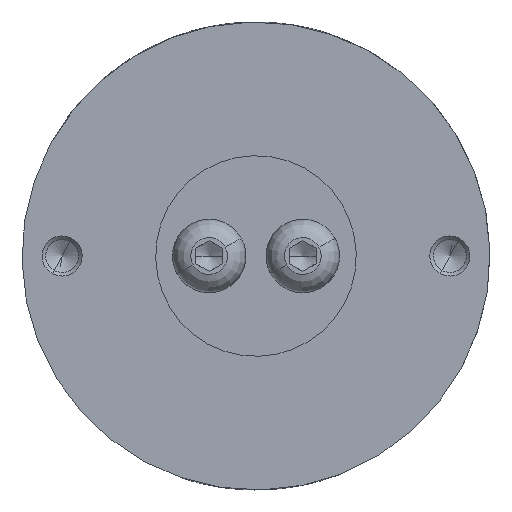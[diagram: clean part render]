
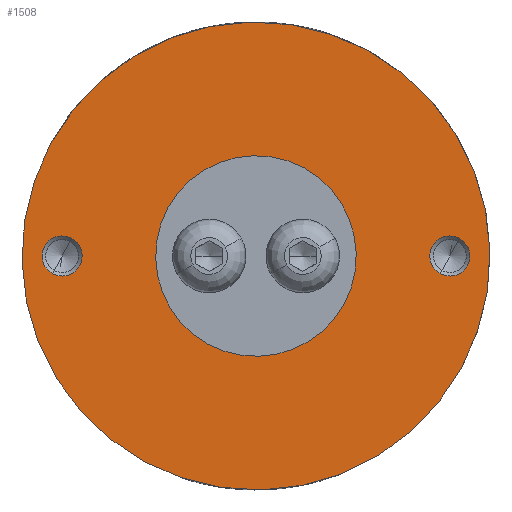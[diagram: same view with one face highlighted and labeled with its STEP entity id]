
A CAD part, front view. The second image highlights one B-rep face of the part: STEP entity #1508.
In plain terms, the highlighted planar face has unit normal (0, -1, 0).
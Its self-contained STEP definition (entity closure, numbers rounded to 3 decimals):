
#1327=CARTESIAN_POINT('Vertex',(15.358,0.,-8.39)) ;
#1330=CARTESIAN_POINT('Axis2P3D Location',(0.,0.,0.)) ;
#1334=CARTESIAN_POINT('Vertex',(-15.358,0.,8.39)) ;
#1391=CARTESIAN_POINT('Axis2P3D Location',(0.,0.,0.)) ;
#1445=CARTESIAN_POINT('Axis2P3D Location',(-17.5,0.,0.)) ;
#1454=CARTESIAN_POINT('Axis2P3D Location',(14.5,0.,0.)) ;
#1458=CARTESIAN_POINT('Vertex',(15.219,0.,1.316)) ;
#1460=CARTESIAN_POINT('Vertex',(13.781,0.,-1.316)) ;
#1463=CARTESIAN_POINT('Axis2P3D Location',(14.5,0.,0.)) ;
#1472=CARTESIAN_POINT('Axis2P3D Location',(-14.5,0.,0.)) ;
#1476=CARTESIAN_POINT('Vertex',(-15.219,0.,-1.316)) ;
#1478=CARTESIAN_POINT('Vertex',(-13.781,0.,1.316)) ;
#1481=CARTESIAN_POINT('Axis2P3D Location',(-14.5,0.,0.)) ;
#1490=CARTESIAN_POINT('Axis2P3D Location',(0.,0.,0.)) ;
#1494=CARTESIAN_POINT('Vertex',(6.582,0.,-3.596)) ;
#1496=CARTESIAN_POINT('Vertex',(-6.582,0.,3.596)) ;
#1499=CARTESIAN_POINT('Axis2P3D Location',(0.,0.,0.)) ;
#1331=DIRECTION('Axis2P3D Direction',(0.,1.,0.)) ;
#1392=DIRECTION('Axis2P3D Direction',(0.,1.,0.)) ;
#1446=DIRECTION('Axis2P3D Direction',(0.,1.,0.)) ;
#1447=DIRECTION('Axis2P3D XDirection',(1.,-0.,0.)) ;
#1455=DIRECTION('Axis2P3D Direction',(0.,1.,0.)) ;
#1464=DIRECTION('Axis2P3D Direction',(0.,1.,0.)) ;
#1473=DIRECTION('Axis2P3D Direction',(0.,1.,0.)) ;
#1482=DIRECTION('Axis2P3D Direction',(0.,1.,0.)) ;
#1491=DIRECTION('Axis2P3D Direction',(0.,1.,0.)) ;
#1500=DIRECTION('Axis2P3D Direction',(0.,1.,0.)) ;
#1332=AXIS2_PLACEMENT_3D('Circle Axis2P3D',#1330,#1331,$) ;
#1393=AXIS2_PLACEMENT_3D('Circle Axis2P3D',#1391,#1392,$) ;
#1448=AXIS2_PLACEMENT_3D('Plane Axis2P3D',#1445,#1446,#1447) ;
#1456=AXIS2_PLACEMENT_3D('Circle Axis2P3D',#1454,#1455,$) ;
#1465=AXIS2_PLACEMENT_3D('Circle Axis2P3D',#1463,#1464,$) ;
#1474=AXIS2_PLACEMENT_3D('Circle Axis2P3D',#1472,#1473,$) ;
#1483=AXIS2_PLACEMENT_3D('Circle Axis2P3D',#1481,#1482,$) ;
#1492=AXIS2_PLACEMENT_3D('Circle Axis2P3D',#1490,#1491,$) ;
#1501=AXIS2_PLACEMENT_3D('Circle Axis2P3D',#1499,#1500,$) ;
#1451=ORIENTED_EDGE('',*,*,#1395,.F.) ;
#1452=ORIENTED_EDGE('',*,*,#1336,.F.) ;
#1469=ORIENTED_EDGE('',*,*,#1462,.T.) ;
#1470=ORIENTED_EDGE('',*,*,#1467,.T.) ;
#1487=ORIENTED_EDGE('',*,*,#1480,.T.) ;
#1488=ORIENTED_EDGE('',*,*,#1485,.T.) ;
#1505=ORIENTED_EDGE('',*,*,#1498,.T.) ;
#1506=ORIENTED_EDGE('',*,*,#1503,.T.) ;
#1471=FACE_BOUND('',#1468,.T.) ;
#1489=FACE_BOUND('',#1486,.T.) ;
#1507=FACE_BOUND('',#1504,.T.) ;
#1508=ADVANCED_FACE('COVER',(#1453,#1471,#1489,#1507),#1449,.F.) ;
#1333=CIRCLE('generated circle',#1332,17.5) ;
#1394=CIRCLE('generated circle',#1393,17.5) ;
#1457=CIRCLE('generated circle',#1456,1.5) ;
#1466=CIRCLE('generated circle',#1465,1.5) ;
#1475=CIRCLE('generated circle',#1474,1.5) ;
#1484=CIRCLE('generated circle',#1483,1.5) ;
#1493=CIRCLE('generated circle',#1492,7.5) ;
#1502=CIRCLE('generated circle',#1501,7.5) ;
#1336=EDGE_CURVE('',#1328,#1335,#1333,.T.) ;
#1395=EDGE_CURVE('',#1335,#1328,#1394,.T.) ;
#1462=EDGE_CURVE('',#1459,#1461,#1457,.T.) ;
#1467=EDGE_CURVE('',#1461,#1459,#1466,.T.) ;
#1480=EDGE_CURVE('',#1477,#1479,#1475,.T.) ;
#1485=EDGE_CURVE('',#1479,#1477,#1484,.T.) ;
#1498=EDGE_CURVE('',#1495,#1497,#1493,.T.) ;
#1503=EDGE_CURVE('',#1497,#1495,#1502,.T.) ;
#1450=EDGE_LOOP('',(#1451,#1452)) ;
#1468=EDGE_LOOP('',(#1469,#1470)) ;
#1486=EDGE_LOOP('',(#1487,#1488)) ;
#1504=EDGE_LOOP('',(#1505,#1506)) ;
#1453=FACE_OUTER_BOUND('',#1450,.T.) ;
#1449=PLANE('Plane',#1448) ;
#1328=VERTEX_POINT('',#1327) ;
#1335=VERTEX_POINT('',#1334) ;
#1459=VERTEX_POINT('',#1458) ;
#1461=VERTEX_POINT('',#1460) ;
#1477=VERTEX_POINT('',#1476) ;
#1479=VERTEX_POINT('',#1478) ;
#1495=VERTEX_POINT('',#1494) ;
#1497=VERTEX_POINT('',#1496) ;
